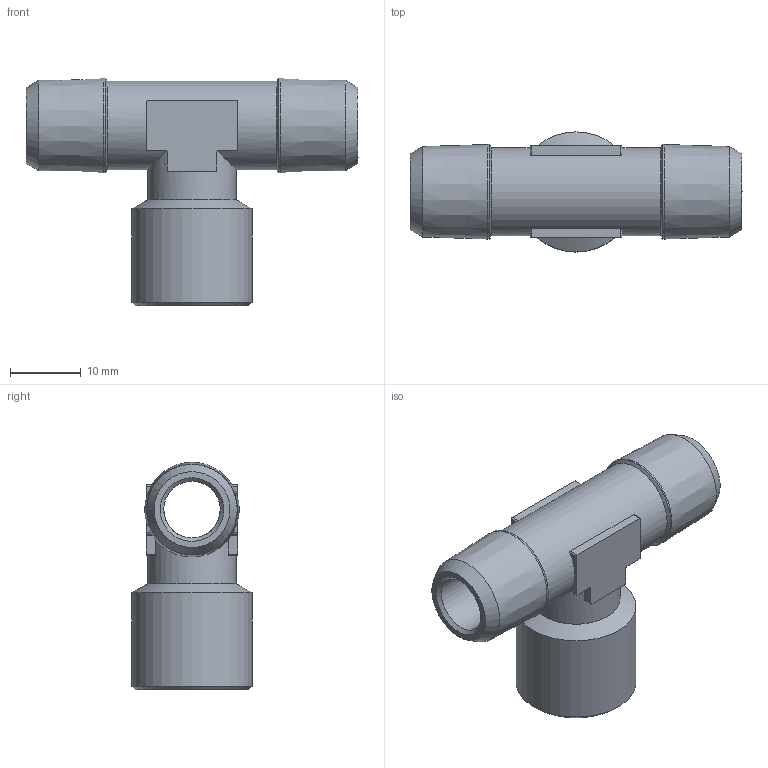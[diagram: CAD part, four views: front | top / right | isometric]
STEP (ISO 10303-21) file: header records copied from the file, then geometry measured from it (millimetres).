
FILE_DESCRIPTION(/* description */ (''),/* implementation_level */ '2;1');
FILE_NAME(/* name */ '40203_117_G1-4_R14_29.09.16',/* time_stamp */ '2016-09-29T12:14:05+02:00',/* author */ (''),/* organization */ (''),/* preprocessor_version */ 'ST-DEVELOPER v16.5',/* originating_system */ 'HiCAD 2016 2101.0 Build 254',/* authorisation */ '');
FILE_SCHEMA (('AUTOMOTIVE_DESIGN { 1 0 10303 214 1 1 1 1 }'));
Length unit declared in the file: millimetre
Products named in the file (2): Root; 40203_117_1-4
Assembly tree (1 placements, depth 2):
  Root
    40203_117_1-4
Bounding box: 47 x 17 x 32.19 mm (x, y, z)
Volume: 5941.4 mm3; surface area: 4948.8 mm2
Topology: 1 solids, 1 shells, 57 faces, 161 edges, 105 vertices
Faces by surface type: cylinder 24, plane 21, cone 12
Full cylindrical faces by diameter (mm): 8 x2, 11.445 x1, 12.5 x2, 13.388 x2, 17 x1
Entity records: 5658 total; most frequent: CARTESIAN_POINT 3071, DIRECTION 272, PRESENTATION_STYLE_ASSIGNMENT 253, COLOUR_RGB 253, DRAUGHTING_PRE_DEFINED_CURVE_FONT 252, CURVE_STYLE 252, OVER_RIDING_STYLED_ITEM 252, ORIENTED_EDGE 252
